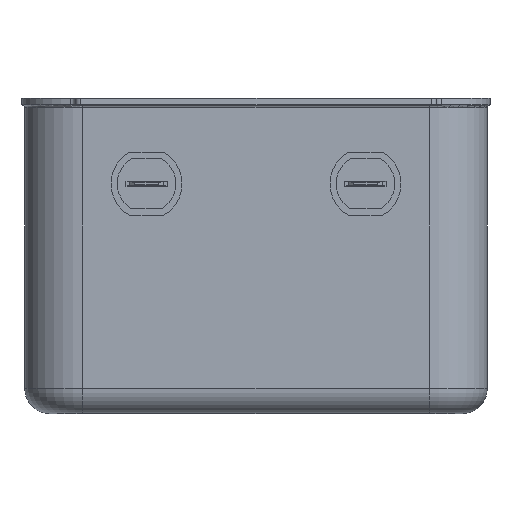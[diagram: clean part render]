
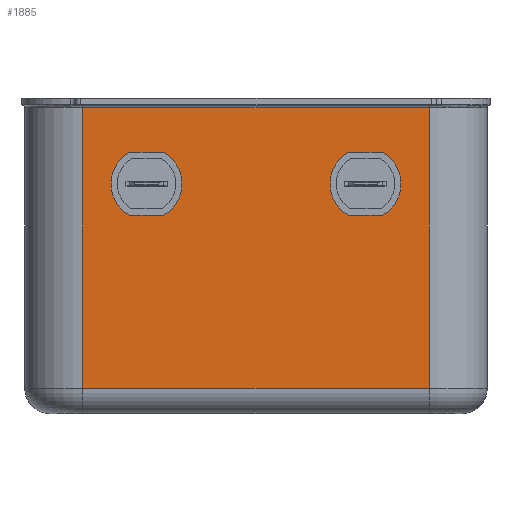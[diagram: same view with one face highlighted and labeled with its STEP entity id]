
A CAD part, left-side view. The second image highlights one B-rep face of the part: STEP entity #1885.
In plain terms, the highlighted planar face has unit normal (-1, 0, 0).
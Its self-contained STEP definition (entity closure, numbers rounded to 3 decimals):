
#1674=CARTESIAN_POINT('',(-49.25,-23.031,36.25));
#1675=VERTEX_POINT('',#1674);
#1682=CARTESIAN_POINT('',(-49.25,-23.031,47.75));
#1683=VERTEX_POINT('',#1682);
#1684=CARTESIAN_POINT('',(-49.25,-20.,42.));
#1685=DIRECTION('',(1.0,0.,0.));
#1686=DIRECTION('',(0.,-0.466,0.885));
#1687=AXIS2_PLACEMENT_3D('',#1684,#1685,#1686);
#1688=CIRCLE('',#1687,6.5);
#1689=EDGE_CURVE('',#1683,#1675,#1688,.T.);
#1713=CARTESIAN_POINT('',(-49.25,-16.969,36.25));
#1714=VERTEX_POINT('',#1713);
#1721=CARTESIAN_POINT('',(-49.25,-23.031,36.25));
#1722=DIRECTION('',(0.0,1.0,0.0));
#1723=VECTOR('',#1722,6.062);
#1724=LINE('',#1721,#1723);
#1725=EDGE_CURVE('',#1675,#1714,#1724,.T.);
#1745=CARTESIAN_POINT('',(-49.25,-16.969,47.75));
#1746=VERTEX_POINT('',#1745);
#1753=CARTESIAN_POINT('',(-49.25,-20.,42.));
#1754=DIRECTION('',(1.0,0.,0.));
#1755=DIRECTION('',(0.,0.466,-0.885));
#1756=AXIS2_PLACEMENT_3D('',#1753,#1754,#1755);
#1757=CIRCLE('',#1756,6.5);
#1758=EDGE_CURVE('',#1714,#1746,#1757,.T.);
#1776=CARTESIAN_POINT('',(-49.25,-16.969,47.75));
#1777=DIRECTION('',(0.0,-1.0,0.0));
#1778=VECTOR('',#1777,6.062);
#1779=LINE('',#1776,#1778);
#1780=EDGE_CURVE('',#1746,#1683,#1779,.T.);
#1804=CARTESIAN_POINT('',(-49.25,42.25,0.0));
#1805=DIRECTION('',(-1.0,0.0,0.0));
#1806=DIRECTION('',(0.0,-1.0,0.0));
#1807=AXIS2_PLACEMENT_3D('',#1804,#1805,#1806);
#1808=PLANE('',#1807);
#1809=CARTESIAN_POINT('',(-49.25,31.65,55.9));
#1810=VERTEX_POINT('',#1809);
#1811=CARTESIAN_POINT('',(-49.25,-31.65,55.9));
#1812=VERTEX_POINT('',#1811);
#1813=CARTESIAN_POINT('',(-49.25,31.65,55.9));
#1814=DIRECTION('',(0.0,-1.0,0.0));
#1815=VECTOR('',#1814,63.3);
#1816=LINE('',#1813,#1815);
#1817=EDGE_CURVE('',#1810,#1812,#1816,.T.);
#1818=ORIENTED_EDGE('',*,*,#1817,.F.);
#1819=CARTESIAN_POINT('',(-49.25,31.65,4.6));
#1820=VERTEX_POINT('',#1819);
#1821=CARTESIAN_POINT('',(-49.25,31.65,4.6));
#1822=DIRECTION('',(0.0,0.0,1.0));
#1823=VECTOR('',#1822,51.3);
#1824=LINE('',#1821,#1823);
#1825=EDGE_CURVE('',#1820,#1810,#1824,.T.);
#1826=ORIENTED_EDGE('',*,*,#1825,.F.);
#1827=CARTESIAN_POINT('',(-49.25,-31.65,4.6));
#1828=VERTEX_POINT('',#1827);
#1829=CARTESIAN_POINT('',(-49.25,-31.65,4.6));
#1830=DIRECTION('',(0.0,1.0,0.0));
#1831=VECTOR('',#1830,63.3);
#1832=LINE('',#1829,#1831);
#1833=EDGE_CURVE('',#1828,#1820,#1832,.T.);
#1834=ORIENTED_EDGE('',*,*,#1833,.F.);
#1835=CARTESIAN_POINT('',(-49.25,-31.65,55.9));
#1836=DIRECTION('',(0.0,0.0,-1.0));
#1837=VECTOR('',#1836,51.3);
#1838=LINE('',#1835,#1837);
#1839=EDGE_CURVE('',#1812,#1828,#1838,.T.);
#1840=ORIENTED_EDGE('',*,*,#1839,.F.);
#1841=EDGE_LOOP('',(#1818,#1826,#1834,#1840));
#1842=FACE_OUTER_BOUND('',#1841,.T.);
#1843=CARTESIAN_POINT('',(-49.25,23.031,36.25));
#1844=VERTEX_POINT('',#1843);
#1845=CARTESIAN_POINT('',(-49.25,23.031,47.75));
#1846=VERTEX_POINT('',#1845);
#1847=CARTESIAN_POINT('',(-49.25,20.,42.));
#1848=DIRECTION('',(1.0,0.,0.));
#1849=DIRECTION('',(0.,0.466,-0.885));
#1850=AXIS2_PLACEMENT_3D('',#1847,#1848,#1849);
#1851=CIRCLE('',#1850,6.5);
#1852=EDGE_CURVE('',#1844,#1846,#1851,.T.);
#1853=ORIENTED_EDGE('',*,*,#1852,.T.);
#1854=CARTESIAN_POINT('',(-49.25,16.969,47.75));
#1855=VERTEX_POINT('',#1854);
#1856=CARTESIAN_POINT('',(-49.25,23.031,47.75));
#1857=DIRECTION('',(0.0,-1.0,0.0));
#1858=VECTOR('',#1857,6.062);
#1859=LINE('',#1856,#1858);
#1860=EDGE_CURVE('',#1846,#1855,#1859,.T.);
#1861=ORIENTED_EDGE('',*,*,#1860,.T.);
#1862=CARTESIAN_POINT('',(-49.25,16.969,36.25));
#1863=VERTEX_POINT('',#1862);
#1864=CARTESIAN_POINT('',(-49.25,20.,42.));
#1865=DIRECTION('',(1.0,0.,0.));
#1866=DIRECTION('',(0.,-0.466,0.885));
#1867=AXIS2_PLACEMENT_3D('',#1864,#1865,#1866);
#1868=CIRCLE('',#1867,6.5);
#1869=EDGE_CURVE('',#1855,#1863,#1868,.T.);
#1870=ORIENTED_EDGE('',*,*,#1869,.T.);
#1871=CARTESIAN_POINT('',(-49.25,16.969,36.25));
#1872=DIRECTION('',(0.0,1.0,0.0));
#1873=VECTOR('',#1872,6.062);
#1874=LINE('',#1871,#1873);
#1875=EDGE_CURVE('',#1863,#1844,#1874,.T.);
#1876=ORIENTED_EDGE('',*,*,#1875,.T.);
#1877=EDGE_LOOP('',(#1853,#1861,#1870,#1876));
#1878=FACE_BOUND('',#1877,.T.);
#1879=ORIENTED_EDGE('',*,*,#1689,.T.);
#1880=ORIENTED_EDGE('',*,*,#1725,.T.);
#1881=ORIENTED_EDGE('',*,*,#1758,.T.);
#1882=ORIENTED_EDGE('',*,*,#1780,.T.);
#1883=EDGE_LOOP('',(#1879,#1880,#1881,#1882));
#1884=FACE_BOUND('',#1883,.T.);
#1885=ADVANCED_FACE('',(#1842,#1878,#1884),#1808,.T.);
